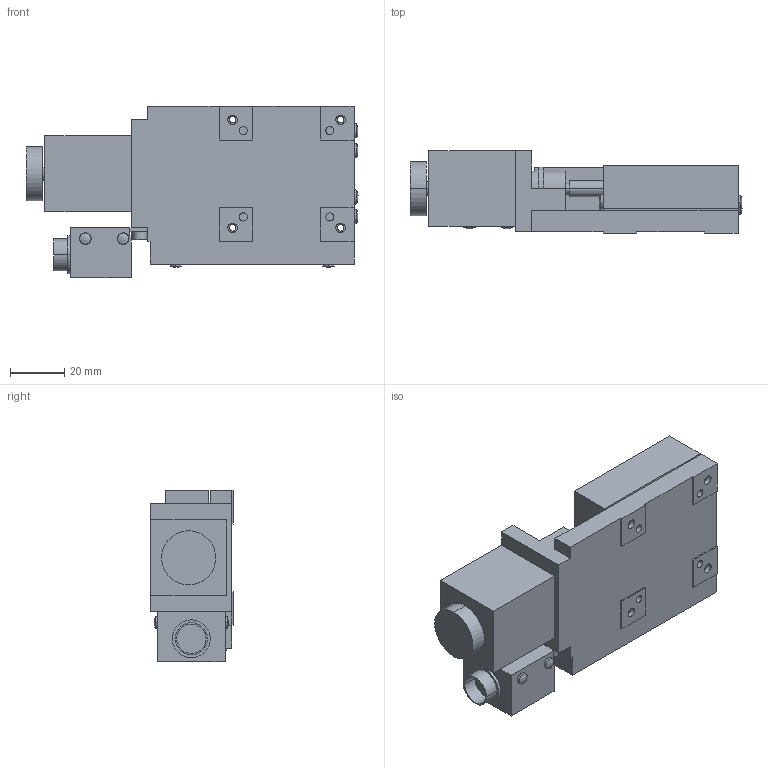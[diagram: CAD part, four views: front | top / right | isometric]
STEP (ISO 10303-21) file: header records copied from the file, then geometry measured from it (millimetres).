
FILE_DESCRIPTION (( 'STEP AP203' ), '1' );
FILE_NAME ('ALS-5012-G1M-R.STEP', '2010-12-20T05:25:20', ( ' ' ), ( ' ' ), 'SwSTEP 2.0', 'SolidWorks 2010', '' );
FILE_SCHEMA (( 'CONFIG_CONTROL_DESIGN' ));
Length unit declared in the file: millimetre
Products named in the file (3): ALS-5012-G1M-R-1; ALS-5012-G1M-R; ALS-5012-G1M-R-2
Assembly tree (2 placements, depth 2):
  ALS-5012-G1M-R
    ALS-5012-G1M-R-2
    ALS-5012-G1M-R-1
Bounding box: 122.94 x 30.5 x 63.5 mm (x, y, z)
Volume: 125419.7 mm3; surface area: 41586 mm2
Topology: 2 solids, 3 shells, 245 faces, 597 edges, 392 vertices
Faces by surface type: plane 128, cylinder 75, cone 28, bspline 14
Entity records: 10302 total; most frequent: CARTESIAN_POINT 4091, DIRECTION 1231, ORIENTED_EDGE 1194, EDGE_CURVE 597, AXIS2_PLACEMENT_3D 428, VERTEX_POINT 392, LINE 375, VECTOR 375
